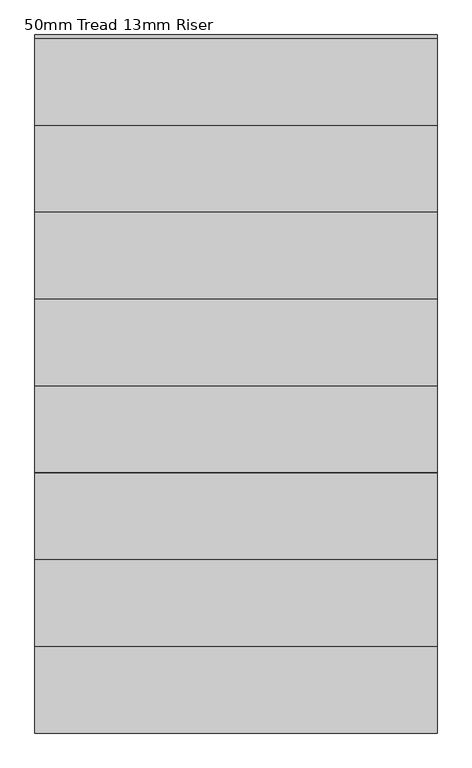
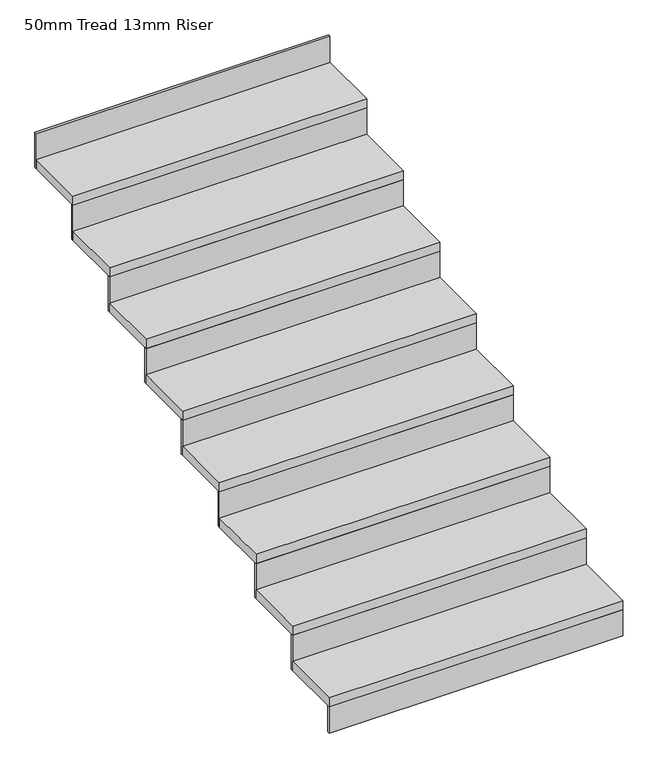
"""IFC4 building model written with IfcOpenShell, lengths in millimetres: stair flight geometry, 50mm Tread 13mm Riser."""

from ifc_helpers import new_model, si_unit, frame, origin, place, context, project, spatial, polyline, outline, extrude, source, transform, mapped, element, save


def stair_flight_50mm_tread_13mm_riser_608741db(model_context):
    return source(origin(), model_context, "Body", "SweptSolid", [
        extrude(outline(polyline([(-79.9999959, 2541.9438392), (1447.7916679, 2541.9438392), (1447.7916679, 2211.9438392), (-79.9999959, 2211.9438392), (-79.9999959, 2541.9438392)])), frame((0.0, 0.0, 1344.1176471), z_axis=(0.0, 0.0, 1.0), x_axis=(1.0, 0.0, 0.0)), (0.0, 0.0, 1.0), 50.0),
        extrude(outline(polyline([(1447.7916679, 2224.4438392), (1447.7916679, 2211.9438392), (-79.9999959, 2211.9438392), (-79.9999959, 2224.4438392), (1447.7916679, 2224.4438392)])), frame((0.0, 0.0, 1200.0), z_axis=(0.0, 0.0, 1.0), x_axis=(1.0, 0.0, 0.0)), (0.0, 0.0, 1.0), 144.1176471),
        extrude(outline(polyline([(-79.9999959, 2871.9438392), (1447.7916679, 2871.9438392), (1447.7916679, 2541.9438392), (-79.9999959, 2541.9438392), (-79.9999959, 2871.9438392)])), frame((0.0, 0.0, 1538.2352941), z_axis=(0.0, 0.0, 1.0), x_axis=(1.0, 0.0, 0.0)), (0.0, 0.0, 1.0), 50.0),
        extrude(outline(polyline([(1447.7916679, 2554.4438392), (1447.7916679, 2541.9438392), (-79.9999959, 2541.9438392), (-79.9999959, 2554.4438392), (1447.7916679, 2554.4438392)])), frame((0.0, 0.0, 1344.1176471), z_axis=(0.0, 0.0, 1.0), x_axis=(1.0, 0.0, 0.0)), (0.0, 0.0, 1.0), 194.1176471),
        extrude(outline(polyline([(-79.9999959, 3201.9438392), (1447.7916679, 3201.9438392), (1447.7916679, 2871.9438392), (-79.9999959, 2871.9438392), (-79.9999959, 3201.9438392)])), frame((0.0, 0.0, 1732.3529412), z_axis=(0.0, 0.0, 1.0), x_axis=(1.0, 0.0, 0.0)), (0.0, 0.0, 1.0), 50.0),
        extrude(outline(polyline([(1447.7916679, 2884.4438392), (1447.7916679, 2871.9438392), (-79.9999959, 2871.9438392), (-79.9999959, 2884.4438392), (1447.7916679, 2884.4438392)])), frame((0.0, 0.0, 1538.2352941), z_axis=(0.0, 0.0, 1.0), x_axis=(1.0, 0.0, 0.0)), (0.0, 0.0, 1.0), 194.1176471),
        extrude(outline(polyline([(-79.9999959, 3531.9438392), (1447.7916679, 3531.9438392), (1447.7916679, 3201.9438392), (-79.9999959, 3201.9438392), (-79.9999959, 3531.9438392)])), frame((0.0, 0.0, 1926.4705882), z_axis=(0.0, 0.0, 1.0), x_axis=(1.0, 0.0, 0.0)), (0.0, 0.0, 1.0), 50.0),
        extrude(outline(polyline([(1447.7916679, 3214.4438392), (1447.7916679, 3201.9438392), (-79.9999959, 3201.9438392), (-79.9999959, 3214.4438392), (1447.7916679, 3214.4438392)])), frame((0.0, 0.0, 1732.3529412), z_axis=(0.0, 0.0, 1.0), x_axis=(1.0, 0.0, 0.0)), (0.0, 0.0, 1.0), 194.1176471),
        extrude(outline(polyline([(-79.9999959, 3861.9438392), (1447.7916679, 3861.9438392), (1447.7916679, 3531.9438392), (-79.9999959, 3531.9438392), (-79.9999959, 3861.9438392)])), frame((0.0, 0.0, 2120.5882353), z_axis=(0.0, 0.0, 1.0), x_axis=(1.0, 0.0, 0.0)), (0.0, 0.0, 1.0), 50.0),
        extrude(outline(polyline([(1447.7916679, 3544.4438392), (1447.7916679, 3531.9438392), (-79.9999959, 3531.9438392), (-79.9999959, 3544.4438392), (1447.7916679, 3544.4438392)])), frame((0.0, 0.0, 1926.4705882), z_axis=(0.0, 0.0, 1.0), x_axis=(1.0, 0.0, 0.0)), (0.0, 0.0, 1.0), 194.1176471),
        extrude(outline(polyline([(-79.9999959, 4191.9438392), (1447.7916679, 4191.9438392), (1447.7916679, 3861.9438392), (-79.9999959, 3861.9438392), (-79.9999959, 4191.9438392)])), frame((0.0, 0.0, 2314.7058824), z_axis=(0.0, 0.0, 1.0), x_axis=(1.0, 0.0, 0.0)), (0.0, 0.0, 1.0), 50.0),
        extrude(outline(polyline([(1447.7916679, 3874.4438392), (1447.7916679, 3861.9438392), (-79.9999959, 3861.9438392), (-79.9999959, 3874.4438392), (1447.7916679, 3874.4438392)])), frame((0.0, 0.0, 2120.5882353), z_axis=(0.0, 0.0, 1.0), x_axis=(1.0, 0.0, 0.0)), (0.0, 0.0, 1.0), 194.1176471),
        extrude(outline(polyline([(-79.9999959, 4521.9438392), (1447.7916679, 4521.9438392), (1447.7916679, 4191.9438392), (-79.9999959, 4191.9438392), (-79.9999959, 4521.9438392)])), frame((0.0, 0.0, 2508.8235294), z_axis=(0.0, 0.0, 1.0), x_axis=(1.0, 0.0, 0.0)), (0.0, 0.0, 1.0), 50.0),
        extrude(outline(polyline([(1447.7916679, 4204.4438392), (1447.7916679, 4191.9438392), (-79.9999959, 4191.9438392), (-79.9999959, 4204.4438392), (1447.7916679, 4204.4438392)])), frame((0.0, 0.0, 2314.7058824), z_axis=(0.0, 0.0, 1.0), x_axis=(1.0, 0.0, 0.0)), (0.0, 0.0, 1.0), 194.1176471),
        extrude(outline(polyline([(-79.9999959, 4851.9438392), (1447.7916679, 4851.9438392), (1447.7916679, 4521.9438392), (-79.9999959, 4521.9438392), (-79.9999959, 4851.9438392)])), frame((0.0, 0.0, 2702.9411765), z_axis=(0.0, 0.0, 1.0), x_axis=(1.0, 0.0, 0.0)), (0.0, 0.0, 1.0), 50.0),
        extrude(outline(polyline([(1447.7916679, 4534.4438392), (1447.7916679, 4521.9438392), (-79.9999959, 4521.9438392), (-79.9999959, 4534.4438392), (1447.7916679, 4534.4438392)])), frame((0.0, 0.0, 2508.8235294), z_axis=(0.0, 0.0, 1.0), x_axis=(1.0, 0.0, 0.0)), (0.0, 0.0, 1.0), 194.1176471),
        extrude(outline(polyline([(1447.7916679, 4864.4438392), (1447.7916679, 4851.9438392), (-79.9999959, 4851.9438392), (-79.9999959, 4864.4438392), (1447.7916679, 4864.4438392)])), frame((0.0, 0.0, 2702.9411765), z_axis=(0.0, 0.0, 1.0), x_axis=(1.0, 0.0, 0.0)), (0.0, 0.0, 1.0), 194.1176471),
    ])


if __name__ == "__main__":
    model = new_model("IFC4")
    model_context = context("Model", 3, world=origin())
    ifc_project = project(units=[si_unit("LENGTHUNIT", "METRE", prefix="MILLI")], contexts=[model_context])
    site = spatial("IfcSite", under=ifc_project)
    building = spatial("IfcBuilding", under=site)
    placement = place(None, origin())
    stair_flight_50mm_tread_13mm_riser_shape = stair_flight_50mm_tread_13mm_riser_608741db(model_context)
    element("IfcStairFlight", 1, ObjectType="50mm Tread 13mm Riser", at=placement, inside=building, context=model_context, shape_type="MappedRepresentation", body=[
        mapped(stair_flight_50mm_tread_13mm_riser_shape, transform((0.0, 0.0, 0.0), x_axis=(1.0, 0.0, 0.0), y_axis=(0.0, 1.0, 0.0), z_axis=(0.0, 0.0, 1.0))),
    ])
    save(model, "model.ifc")
